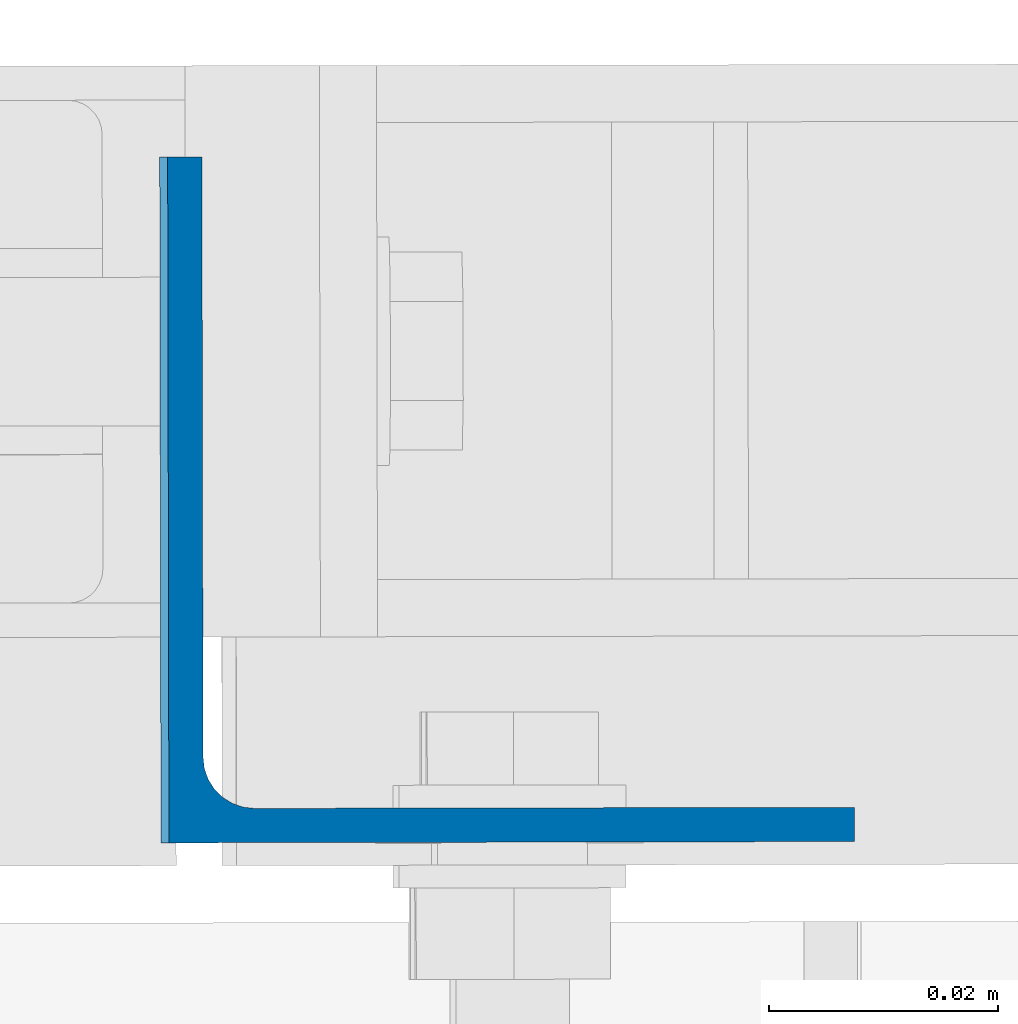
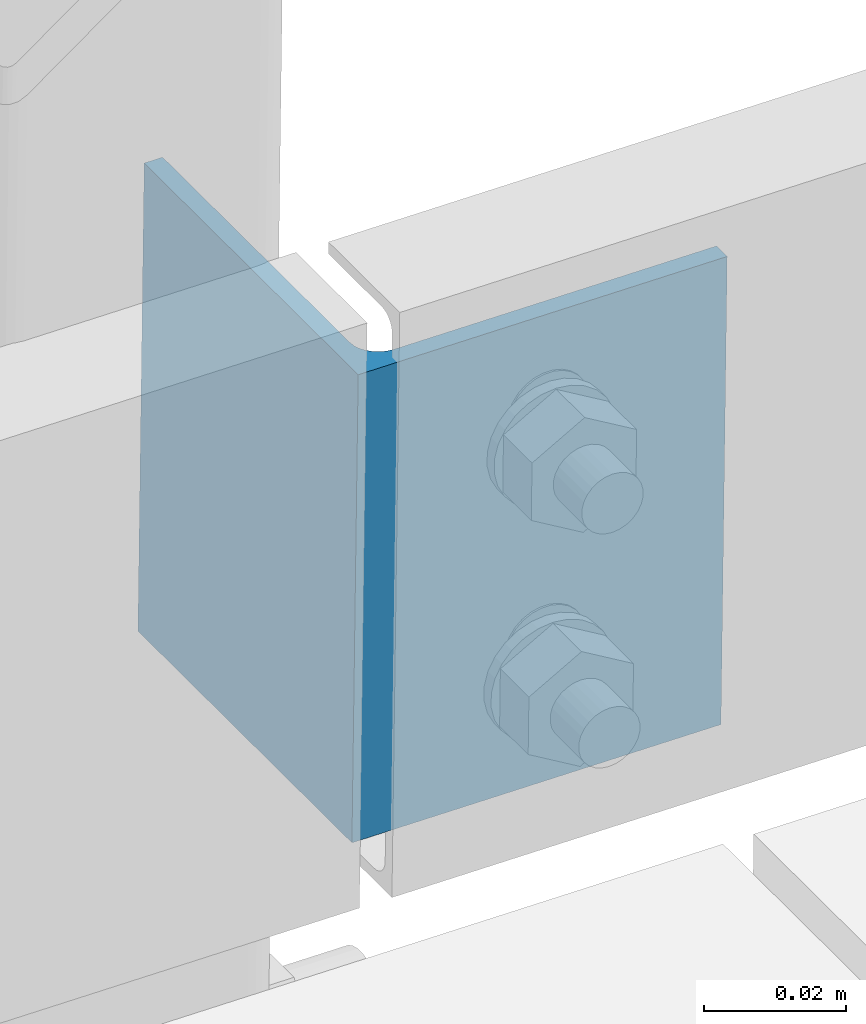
# One storey, part 8 of 169: 1 column, 1 element without a shape of its own.
"""IFC2X3 building model written with IfcOpenShell, lengths in millimetres."""

from ifc_helpers import new_model, si_unit, frame, origin_with_axes, origin_2d_with_axis, place, context, subcontext, project, spatial, l_section, extrude, material, type_object, element, aggregate, save


model = new_model("IFC2X3")

# Units and contexts
model_context = context("Model", 3, precision=1e-05, world=origin_with_axes())
body_context = subcontext(model_context, "Body", "Model", "MODEL_VIEW")
ifc_project = project(units=[si_unit("LENGTHUNIT", "METRE", prefix="MILLI"), si_unit("AREAUNIT", "SQUARE_METRE"), si_unit("VOLUMEUNIT", "CUBIC_METRE"), si_unit("MASSUNIT", "GRAM", prefix="KILO"), si_unit("TIMEUNIT", "SECOND"), si_unit("PLANEANGLEUNIT", "RADIAN"), si_unit("SOLIDANGLEUNIT", "STERADIAN"), si_unit("THERMODYNAMICTEMPERATUREUNIT", "DEGREE_CELSIUS"), si_unit("LUMINOUSINTENSITYUNIT", "LUMEN")], contexts=[model_context])

# Site, building, storey
site_placement = place(None, origin_with_axes())
site = spatial("IfcSite", under=ifc_project, at=site_placement, Name="Undefined", CompositionType="ELEMENT")
building_placement = place(site_placement, origin_with_axes())
building = spatial("IfcBuilding", under=site, at=building_placement, Name="Undefined", CompositionType="ELEMENT")
storey_placement = place(building_placement, origin_with_axes())
storey = spatial("IfcBuildingStorey", under=building, at=storey_placement, Name="Undefined", CompositionType="ELEMENT", Elevation=0.0)

# Assembly, column
assembly_placement = place(storey_placement, origin_with_axes())
assembly = element("IfcElementAssembly", 1, at=assembly_placement, inside=storey, Name="Steel Assembly", AssemblyPlace="NOTDEFINED", PredefinedType="RIGID_FRAME")
ifc_material = material(Name="STEEL/S235")
column_type = type_object("IfcColumnType", Name="L60*3", PredefinedType="NOTDEFINED")
column_placement = place(assembly_placement, frame((14140.3220720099, 2368.38764701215, 13874.4446103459), z_axis=(0.012713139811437, 2.3750999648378e-05, 0.999919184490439), x_axis=(0.9999174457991, 0.00186469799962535, -0.0127131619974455)))
column = element("IfcColumn", 2, at=column_placement, type_object=column_type, material=ifc_material, Name="BEAM", ObjectType="L60*3", context=body_context, shape_type="SweptSolid", body=[
    extrude(l_section(Depth=60.0, Width=60.0, Thickness=3.0, FilletRadius=4.5, at=origin_2d_with_axis()), frame((-1.81898940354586e-12, 2.86403015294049e-19, 80.0000000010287), z_axis=(-2.54700353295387e-10, 0.0, -1.0), x_axis=(0.0, 1.0, 0.0)), (0.0, 0.0, 1.0), 80.0),
])
aggregate(assembly, [column])

save(model, "model.ifc")
